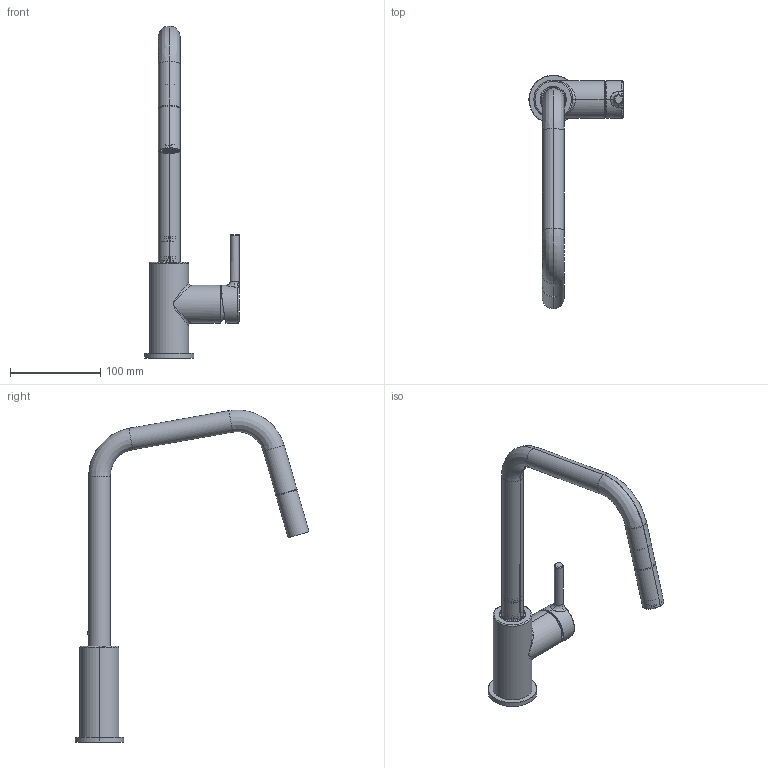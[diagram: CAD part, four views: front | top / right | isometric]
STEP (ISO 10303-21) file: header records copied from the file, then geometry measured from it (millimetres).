
FILE_DESCRIPTION(/* description */ (''),/* implementation_level */ '2;1');
FILE_NAME(/* name */ '3D001_Taps_Lina_U-Pull-Down-Nozzle',/* time_stamp */ '2026-08-05T15:28:41+02:00',/* author */ (''),/* organization */ (''),/* preprocessor_version */ 'ST-DEVELOPER v19.2',/* originating_system */ 'Rhino 8.31',/* authorisation */ '');
FILE_SCHEMA (('CONFIG_CONTROL_DESIGN'));
Length unit declared in the file: millimetre
Products named in the file (17): Document; SAE031010; SPL350341; SMM254660; SMM257940; SBU050880; STU501460; SMM257560; SGU150190; SGU151220; SGU152250; SMN6025807; SBU050510; SMN6044205; SGU15275011; SZA6018902; SZA602031
Bounding box: 104.35 x 258.81 x 367.28 mm (x, y, z)
Volume: 141338.7 mm3; surface area: 157547.2 mm2
Topology: 28 solids, 41 shells, 3163 faces, 8875 edges, 5741 vertices
Faces by surface type: cylinder 1376, plane 1362, bspline 425
Entity records: 151429 total; most frequent: CARTESIAN_POINT 84600, ORIENTED_EDGE 17286, EDGE_CURVE 8676, B_SPLINE_CURVE_WITH_KNOTS 7470, VERTEX_POINT 5616, DIRECTION 5205, EDGE_LOOP 4406, AXIS2_PLACEMENT_3D 3954
